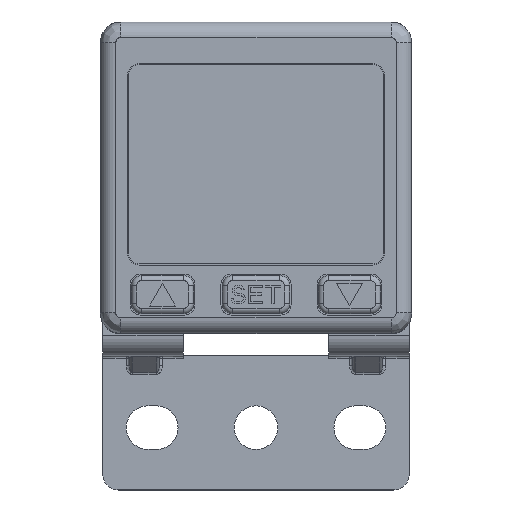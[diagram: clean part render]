
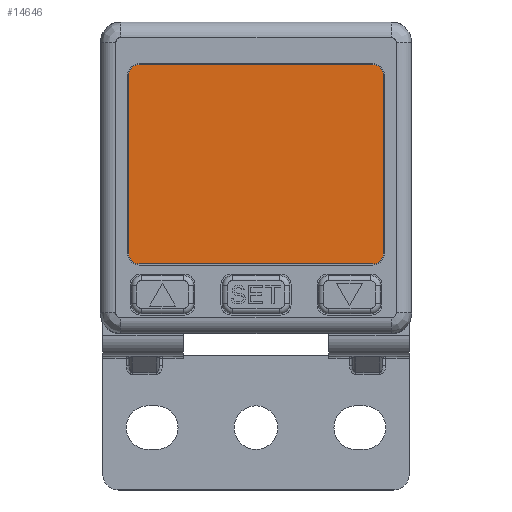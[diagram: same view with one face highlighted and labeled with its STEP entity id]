
A CAD part, top view. The second image highlights one B-rep face of the part: STEP entity #14646.
In plain terms, the highlighted planar face has unit normal (0, 0, 1).
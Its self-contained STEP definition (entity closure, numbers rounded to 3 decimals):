
#1407=CARTESIAN_POINT('',(17.904,13.419,40.525));
#1408=DIRECTION('',(0.,0.,1.));
#1409=DIRECTION('',(1.,0.,0.));
#1410=AXIS2_PLACEMENT_3D('',#1407,#1408,#1409);
#1420=CARTESIAN_POINT('',(17.904,-3.781,40.525));
#1421=DIRECTION('',(0.,0.,1.));
#1422=DIRECTION('',(0.,-1.,0.));
#1423=AXIS2_PLACEMENT_3D('',#1420,#1421,#1422);
#1433=CARTESIAN_POINT('',(-4.596,-3.781,40.525));
#1434=DIRECTION('',(0.,0.,1.));
#1435=DIRECTION('',(-1.,0.,0.));
#1436=AXIS2_PLACEMENT_3D('',#1433,#1434,#1435);
#1446=CARTESIAN_POINT('',(-4.596,13.419,40.525));
#1447=DIRECTION('',(0.,0.,1.));
#1448=DIRECTION('',(0.,1.,0.));
#1449=AXIS2_PLACEMENT_3D('',#1446,#1447,#1448);
#1455=DIRECTION('',(0.,1.,0.));
#1456=VECTOR('',#1455,17.2);
#1457=CARTESIAN_POINT('',(-5.596,-3.781,40.525));
#1458=LINE('',#1457,#1456);
#1459=DIRECTION('',(1.,0.,0.));
#1460=VECTOR('',#1459,22.5);
#1461=CARTESIAN_POINT('',(-4.596,14.419,40.525));
#1462=LINE('',#1461,#1460);
#1463=DIRECTION('',(0.,-1.,0.));
#1464=VECTOR('',#1463,17.2);
#1465=CARTESIAN_POINT('',(18.904,13.419,40.525));
#1466=LINE('',#1465,#1464);
#1467=DIRECTION('',(-1.,0.,0.));
#1468=VECTOR('',#1467,22.5);
#1469=CARTESIAN_POINT('',(17.904,-4.781,40.525));
#1470=LINE('',#1469,#1468);
#10545=CARTESIAN_POINT('',(18.904,13.419,40.525));
#10547=VERTEX_POINT('',#10545);
#10549=CARTESIAN_POINT('',(18.904,-3.781,40.525));
#10551=VERTEX_POINT('',#10549);
#10553=CARTESIAN_POINT('',(17.904,-4.781,40.525));
#10555=VERTEX_POINT('',#10553);
#10557=CARTESIAN_POINT('',(-4.596,-4.781,40.525));
#10559=VERTEX_POINT('',#10557);
#10561=CARTESIAN_POINT('',(-5.596,-3.781,40.525));
#10563=VERTEX_POINT('',#10561);
#10565=CARTESIAN_POINT('',(-5.596,13.419,40.525));
#10567=VERTEX_POINT('',#10565);
#10569=CARTESIAN_POINT('',(-4.596,14.419,40.525));
#10571=VERTEX_POINT('',#10569);
#10573=CARTESIAN_POINT('',(17.904,14.419,40.525));
#10575=VERTEX_POINT('',#10573);
#14631=CARTESIAN_POINT('',(6.654,6.019,40.525));
#14632=DIRECTION('',(0.,0.,1.));
#14633=DIRECTION('',(1.,0.,0.));
#14634=AXIS2_PLACEMENT_3D('',#14631,#14632,#14633);
#14635=PLANE('',#14634);
#14636=ORIENTED_EDGE('',*,*,#14597,.T.);
#14637=ORIENTED_EDGE('',*,*,#14611,.F.);
#14638=ORIENTED_EDGE('',*,*,#14624,.T.);
#14639=ORIENTED_EDGE('',*,*,#14526,.F.);
#14640=ORIENTED_EDGE('',*,*,#14541,.T.);
#14641=ORIENTED_EDGE('',*,*,#14555,.F.);
#14642=ORIENTED_EDGE('',*,*,#14569,.T.);
#14643=ORIENTED_EDGE('',*,*,#14583,.F.);
#14644=EDGE_LOOP('',(#14636,#14637,#14638,#14639,#14640,#14641,#14642,#14643));
#14645=FACE_OUTER_BOUND('',#14644,.F.);
#14646=ADVANCED_FACE('',(#14645),#14635,.T.);
#1411=CIRCLE('',#1410,1.);
#1424=CIRCLE('',#1423,1.);
#1437=CIRCLE('',#1436,1.);
#1450=CIRCLE('',#1449,1.);
#14526=EDGE_CURVE('',#10547,#10575,#1411,.T.);
#14541=EDGE_CURVE('',#10547,#10551,#1466,.T.);
#14555=EDGE_CURVE('',#10555,#10551,#1424,.T.);
#14569=EDGE_CURVE('',#10555,#10559,#1470,.T.);
#14583=EDGE_CURVE('',#10563,#10559,#1437,.T.);
#14597=EDGE_CURVE('',#10563,#10567,#1458,.T.);
#14611=EDGE_CURVE('',#10571,#10567,#1450,.T.);
#14624=EDGE_CURVE('',#10571,#10575,#1462,.T.);
